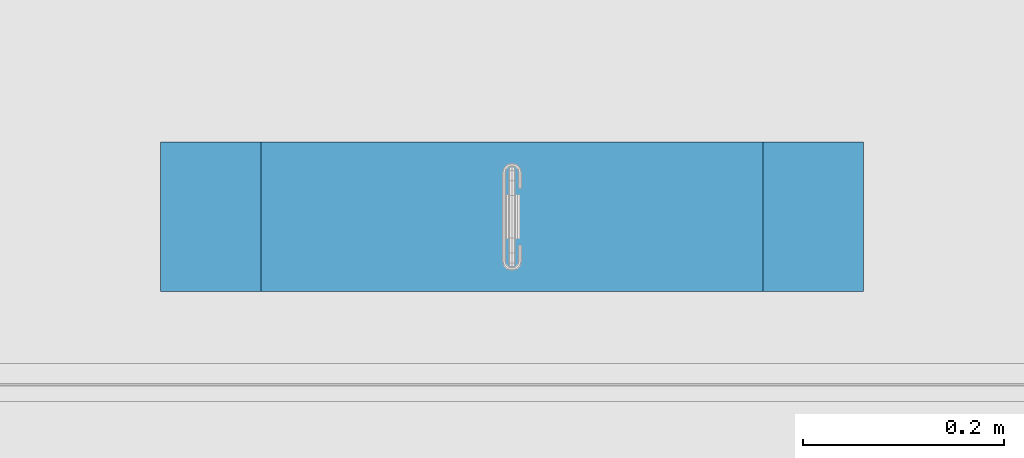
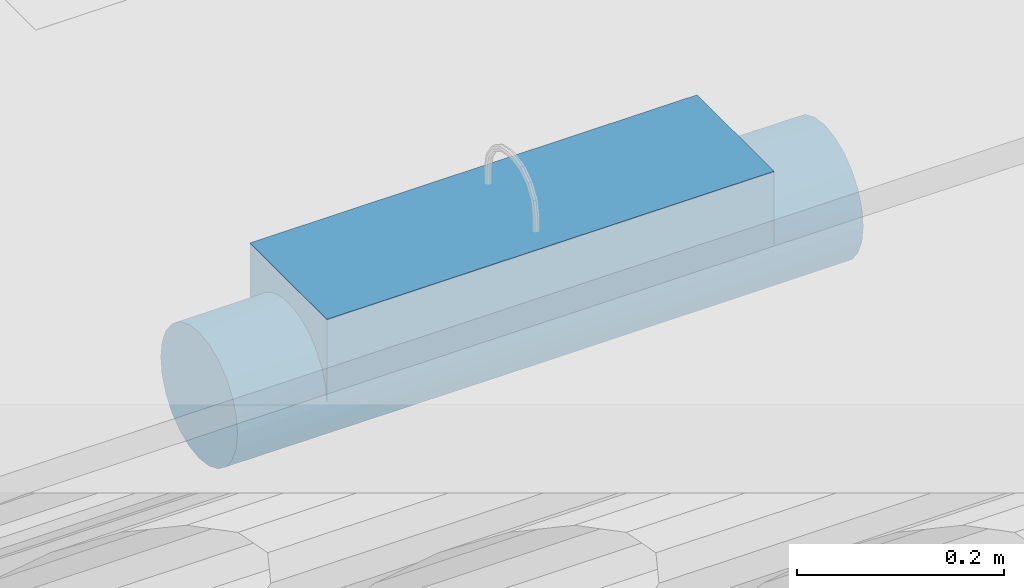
# One storey, part 189 of 230: 1 beam.
"""IFC4X3_ADD2 building model written with IfcOpenShell, lengths in millimetres."""

from ifc_helpers import new_model, si_unit, direction, origin_with_axes, place, context, subcontext, project, spatial, polygons, element, save


model = new_model("IFC4X3_ADD2")

# Units and contexts
model_context = context("Model", 3, precision=1e-05, world=origin_with_axes(), true_north=direction((0.0, 1.0)))
body_context = subcontext(model_context, "Body", "Model", "MODEL_VIEW")
ifc_project = project(units=[si_unit("LENGTHUNIT", "METRE", prefix="MILLI"), si_unit("AREAUNIT", "SQUARE_METRE"), si_unit("VOLUMEUNIT", "CUBIC_METRE"), si_unit("PLANEANGLEUNIT", "RADIAN"), si_unit("TIMEUNIT", "SECOND"), si_unit("MASSUNIT", "GRAM")], contexts=[model_context])

# Site, building, storey
site_placement = place(None, origin_with_axes())
site = spatial("IfcSite", under=ifc_project, at=site_placement, Name="Site", CompositionType="ELEMENT")
building_placement = place(site_placement, origin_with_axes())
building = spatial("IfcBuilding", under=site, at=building_placement, Name="IFC Building Story")
storey_placement = place(building_placement, origin_with_axes())
storey = spatial("IfcBuildingStorey", under=building, at=storey_placement, Name="ETAGE 00 (0)", Elevation=0.0)

# Beam
beam_placement = place(storey_placement, origin_with_axes())
element("IfcBeam", 1, at=beam_placement, inside=storey, Name="ES44", ObjectType="500*149", context=body_context, shape_type="Tessellation", body=[
    polygons([(38451.189, 8287.962371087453, 4119.282015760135), (38551.189, 8288.33606303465, 4117.829011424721), (38451.189, 8290.500897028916, 4099.999996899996), (38451.189, 8280.519789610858, 4137.249996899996), (38551.189, 8281.967371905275, 4134.621871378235), (38551.189, 8258.321721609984, 4161.312294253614), (38451.189, 8268.680352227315, 4152.679452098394), (38451.189, 8253.250897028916, 4164.518889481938), (38551.189, 8242.418961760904, 4169.658706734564), (38451.189, 8235.282915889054, 4171.961470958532), (38551.189, 8271.764948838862, 4149.402633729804), (38551.189, 8290.500897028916, 4099.999993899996), (38551.189, 8224.980879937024, 4173.956807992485), (38451.189, 8216.000897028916, 4174.499996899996), (38551.189, 8207.020914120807, 4173.956807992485), (38451.189, 8196.718878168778, 4171.961470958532), (38451.189, 8178.750897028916, 4164.518889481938), (38551.189, 8189.582832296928, 4169.658706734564), (38451.189, 8151.482004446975, 4137.249996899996), (38451.189, 8144.039422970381, 4119.282015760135), (38551.189, 8150.034422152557, 4134.621871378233), (38551.189, 8160.236845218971, 4149.402633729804), (38451.189, 8163.32144183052, 4152.679452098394), (38551.189, 8173.680072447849, 4161.312294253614), (38551.189, 8143.665731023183, 4117.829011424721), (38451.189, 8141.500897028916, 4099.999996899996), (38551.189, 8141.500897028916, 4099.999993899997), (38551.189, 8290.500897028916, 4199.999993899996), (38551.189, 8141.500897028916, 4199.999993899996), (39051.189, 8141.500897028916, 4199.999993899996), (39051.189, 8290.500897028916, 4199.999993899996), (39051.189, 8141.500897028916, 4099.999993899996), (39051.189, 8143.665731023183, 4117.829011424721), (39051.189, 8150.034422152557, 4134.621871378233), (39051.189, 8160.236845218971, 4149.402633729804), (39051.189, 8173.680072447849, 4161.312294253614), (39051.189, 8189.582832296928, 4169.658706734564), (39051.189, 8207.020914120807, 4173.956807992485), (39051.189, 8224.980879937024, 4173.956807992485), (39051.189, 8242.418961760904, 4169.658706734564), (39051.189, 8258.321721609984, 4161.312294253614), (39051.189, 8271.764948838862, 4149.402633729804), (39051.189, 8281.967371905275, 4134.621871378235), (39051.189, 8288.33606303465, 4117.829011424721), (39051.189, 8290.500897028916, 4099.999993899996), (39151.189, 8151.482004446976, 4062.749996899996), (39151.189, 8163.32144183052, 4047.320541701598), (39151.189, 8178.750897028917, 4035.481104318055), (39151.189, 8196.718878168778, 4028.038522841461), (39151.189, 8216.000897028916, 4025.499996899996), (39151.189, 8235.282915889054, 4028.038522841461), (39151.189, 8253.250897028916, 4035.481104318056), (39151.189, 8268.680352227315, 4047.320541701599), (39151.189, 8280.519789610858, 4062.749996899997), (39151.189, 8287.962371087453, 4080.717978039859), (39151.189, 8290.500897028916, 4099.999996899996), (39151.189, 8287.962371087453, 4119.282015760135), (39151.189, 8280.519789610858, 4137.249996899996), (39151.189, 8268.680352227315, 4152.679452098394), (39151.189, 8253.250897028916, 4164.518889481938), (39151.189, 8235.282915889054, 4171.961470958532), (39151.189, 8216.000897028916, 4174.499996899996), (39151.189, 8196.718878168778, 4171.961470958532), (39151.189, 8178.750897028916, 4164.518889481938), (39151.189, 8163.32144183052, 4152.679452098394), (39151.189, 8151.482004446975, 4137.249996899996), (39151.189, 8144.039422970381, 4119.282015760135), (39151.189, 8141.500897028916, 4099.999996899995), (39151.189, 8144.039422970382, 4080.717978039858), (38451.189, 8287.962371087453, 4080.717978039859), (38451.189, 8280.519789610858, 4062.749996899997), (38451.189, 8268.680352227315, 4047.320541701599), (38451.189, 8253.250897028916, 4035.481104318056), (38451.189, 8235.282915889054, 4028.038522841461), (38451.189, 8216.000897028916, 4025.499996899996), (38451.189, 8196.718878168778, 4028.038522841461), (38451.189, 8178.750897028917, 4035.481104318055), (38451.189, 8163.32144183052, 4047.320541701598), (38451.189, 8151.482004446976, 4062.749996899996), (38451.189, 8144.039422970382, 4080.717978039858), (38801.189, 8147.171871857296, 4071.490081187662), (38801.189, 8187.490981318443, 4031.170971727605), (38801.189, 8170.648170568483, 4040.895173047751), (38801.189, 8156.896073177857, 4054.647270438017), (38801.189, 8206.276695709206, 4026.137354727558), (38801.189, 8142.684243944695, 4086.774325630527), (38801.189, 8225.725098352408, 4026.137354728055), (38801.189, 8244.51081274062, 4031.170971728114), (38801.189, 8289.317550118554, 4086.774325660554), (38801.189, 8261.353623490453, 4040.895173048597), (38801.189, 8275.105720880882, 4054.647270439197), (38801.189, 8284.82992220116, 4071.490081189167)], [[[1, 2, 3]], [[4, 5, 1]], [[6, 7, 8]], [[9, 8, 10]], [[7, 11, 4]], [[1, 5, 2]], [[2, 12, 3]], [[6, 11, 7]], [[9, 6, 8]], [[10, 13, 9]], [[11, 5, 4]], [[10, 14, 13]], [[15, 14, 16]], [[17, 18, 16]], [[19, 20, 21]], [[22, 23, 19]], [[24, 17, 23]], [[25, 20, 26]], [[16, 18, 15]], [[17, 24, 18]], [[23, 22, 24]], [[19, 21, 22]], [[25, 21, 20]], [[26, 27, 25]], [[14, 15, 13]], [[28, 29, 30, 31]], [[44, 45, 31]], [[31, 43, 44]], [[31, 42, 43]], [[31, 41, 42]], [[31, 40, 41]], [[31, 39, 40]], [[31, 30, 38]], [[31, 38, 39]], [[30, 37, 38]], [[30, 36, 37]], [[30, 35, 36]], [[30, 34, 35]], [[30, 33, 34]], [[30, 32, 33]], [[28, 31, 45, 12]], [[25, 27, 29]], [[29, 21, 25]], [[29, 22, 21]], [[29, 24, 22]], [[29, 18, 24]], [[29, 15, 18]], [[29, 28, 13]], [[29, 13, 15]], [[28, 9, 13]], [[28, 6, 9]], [[28, 11, 6]], [[28, 5, 11]], [[28, 2, 5]], [[28, 12, 2]], [[30, 29, 27, 32]], [[46, 47, 48]], [[46, 48, 49]], [[46, 49, 50]], [[46, 50, 51]], [[46, 51, 52]], [[46, 52, 53]], [[46, 53, 54]], [[46, 54, 55]], [[46, 55, 56]], [[46, 56, 57]], [[46, 57, 58]], [[46, 58, 59]], [[46, 59, 60]], [[46, 60, 61]], [[46, 61, 62]], [[46, 62, 63]], [[46, 63, 64]], [[46, 64, 65]], [[46, 65, 66]], [[46, 66, 67]], [[46, 67, 68]], [[46, 68, 69]], [[70, 71, 72]], [[70, 72, 73]], [[70, 73, 74]], [[70, 74, 75]], [[70, 75, 76]], [[70, 76, 77]], [[70, 77, 78]], [[70, 78, 79]], [[70, 79, 80]], [[70, 80, 26]], [[70, 26, 20]], [[70, 20, 19]], [[70, 19, 23]], [[70, 23, 17]], [[70, 17, 16]], [[70, 16, 14]], [[70, 14, 10]], [[70, 10, 8]], [[70, 8, 7]], [[70, 7, 4]], [[70, 4, 1]], [[70, 1, 3]], [[43, 57, 44]], [[42, 58, 43]], [[40, 60, 41]], [[42, 41, 59]], [[61, 40, 39]], [[44, 56, 45]], [[44, 57, 56]], [[58, 42, 59]], [[41, 60, 59]], [[57, 43, 58]], [[40, 61, 60]], [[39, 62, 61]], [[37, 36, 64]], [[38, 37, 63]], [[35, 34, 66]], [[33, 32, 68]], [[34, 33, 67]], [[36, 35, 65]], [[37, 64, 63]], [[63, 62, 38]], [[64, 36, 65]], [[35, 66, 65]], [[67, 66, 34]], [[67, 33, 68]], [[38, 62, 39]], [[27, 26, 80]], [[79, 81, 80]], [[77, 76, 82]], [[83, 78, 77]], [[84, 79, 78]], [[85, 76, 75]], [[27, 86, 32]], [[86, 81, 69]], [[84, 83, 47]], [[69, 68, 32]], [[81, 86, 80]], [[83, 77, 82]], [[81, 84, 46]], [[46, 69, 81]], [[82, 85, 49]], [[47, 46, 84]], [[47, 83, 48]], [[85, 75, 87]], [[49, 48, 82]], [[84, 78, 83]], [[50, 49, 85]], [[83, 82, 48]], [[73, 88, 74]], [[12, 89, 70]], [[27, 80, 86]], [[72, 90, 73]], [[70, 3, 12]], [[87, 50, 85]], [[72, 71, 91]], [[70, 92, 71]], [[82, 76, 85]], [[88, 87, 74]], [[32, 86, 69]], [[89, 12, 45]], [[87, 88, 51]], [[88, 52, 51]], [[88, 90, 52]], [[52, 90, 53]], [[51, 50, 87]], [[90, 72, 91]], [[55, 54, 92]], [[53, 91, 54]], [[92, 70, 89]], [[56, 55, 45]], [[81, 79, 84]], [[90, 91, 53]], [[55, 92, 89]], [[91, 71, 92]], [[91, 92, 54]], [[87, 75, 74]], [[45, 55, 89]], [[88, 73, 90]]]),
])

save(model, "model.ifc")
